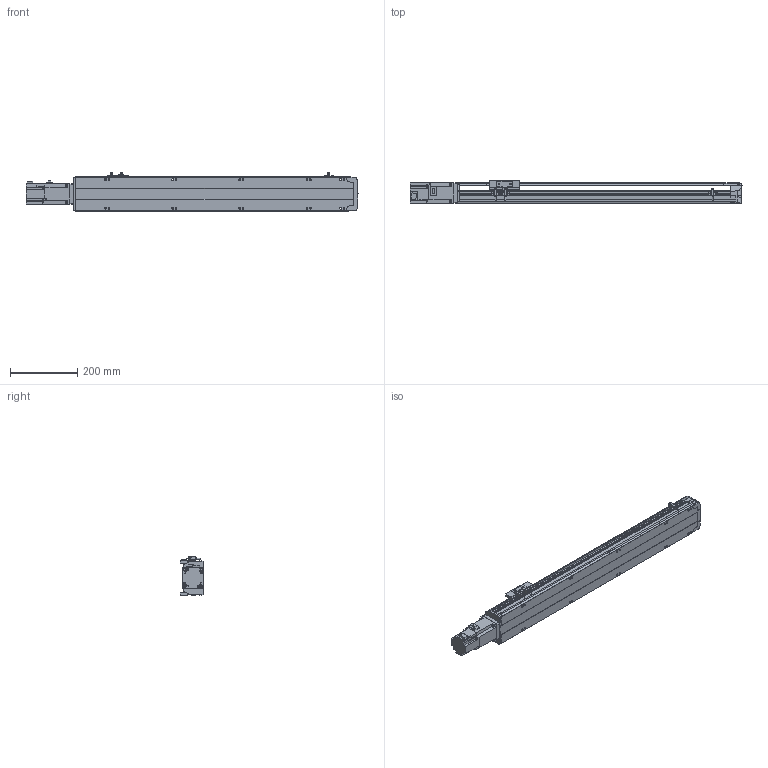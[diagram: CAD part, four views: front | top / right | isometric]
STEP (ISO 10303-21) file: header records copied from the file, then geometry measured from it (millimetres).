
FILE_DESCRIPTION(/* description */ ('STEP AP214'),/* implementation_level */ '2;1');
FILE_NAME(/* name */ 'PSS120-L10-S600-BC-T40-C1-N(0)',/* time_stamp */ '2022-06-02T02:33:16+02:00',/* author */ ('License CC BY-ND 4.0'),/* organization */ ('CADENAS'),/* preprocessor_version */ 'ST-DEVELOPER v18.102',/* originating_system */ 'PARTsolutions',/* authorisation */ ' ');
FILE_SCHEMA (('AUTOMOTIVE_DESIGN {1 0 10303 214 3 1 1}'));
Length unit declared in the file: millimetre
Products named in the file (8): PSS120-L10-S600-BC-T40-C1-N(0); PSS120-S600-BC-N_S; T40-p1; PSS120BC-N_h; PSS120-N_sensor; PSS120-BC-C1-N_sl; PSS120-N_Q; PSS120-S600-BC-C1-N_body
Assembly tree (9 placements, depth 2):
  PSS120-L10-S600-BC-T40-C1-N(0)
    PSS120-S600-BC-N_S
    T40-p1
    PSS120BC-N_h
    PSS120-N_sensor  x3
    PSS120-BC-C1-N_sl
    PSS120-N_Q
    PSS120-S600-BC-C1-N_body
Bounding box: 988.7 x 70 x 117.7 mm (x, y, z)
Volume: 3189793.1 mm3; surface area: 575712 mm2
Topology: 9 solids, 9 shells, 817 faces, 2184 edges, 1448 vertices
Faces by surface type: plane 553, cylinder 242, cone 22
Full cylindrical faces by diameter (mm): 2.8 x3, 4 x4, 4.134 x14, 4.2 x4, 4.4 x2, 4.5 x4, 4.6 x3, 4.917 x4, 5 x6, 5.5 x17, 7 x2, 8 x8, 8.5 x14, 14 x1, 28 x1, 32 x1, 50 x1
Entity records: 21922 total; most frequent: CARTESIAN_POINT 3952, DIRECTION 3673, ORIENTED_EDGE 3550, EDGE_CURVE 1775, LINE 1243, VECTOR 1243, VERTEX_POINT 1238, AXIS2_PLACEMENT_3D 1215
